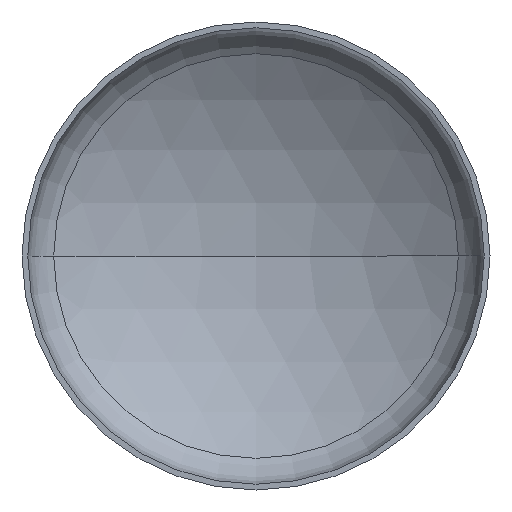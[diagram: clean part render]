
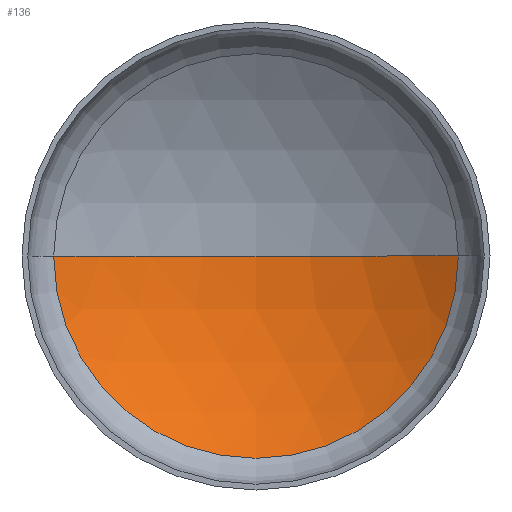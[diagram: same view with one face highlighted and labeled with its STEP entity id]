
A CAD part, front view. The second image highlights one B-rep face of the part: STEP entity #136.
In plain terms, the highlighted spherical face has radius 251.12 mm.
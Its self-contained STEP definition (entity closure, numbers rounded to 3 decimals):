
#49 = DIRECTION ( 'NONE',  ( 0., 0., 1. ) ) ;
#52 = CIRCLE ( 'NONE', #290, 251.12 ) ;
#64 = EDGE_LOOP ( 'NONE', ( #279, #143, #272 ) ) ;
#65 = DIRECTION ( 'NONE',  ( 0., 0., 1. ) ) ;
#93 = CARTESIAN_POINT ( 'NONE',  ( 0., -156.12, 0. ) ) ;
#94 = CARTESIAN_POINT ( 'NONE',  ( 0., -156.12, 0. ) ) ;
#97 = CARTESIAN_POINT ( 'NONE',  ( -139.99, 52.361, 0. ) ) ;
#123 = VERTEX_POINT ( 'NONE', #97 ) ;
#124 = EDGE_CURVE ( 'NONE', #123, #312, #126, .T. ) ;
#126 = CIRCLE ( 'NONE', #193, 251.12 ) ;
#136 = ADVANCED_FACE ( 'NONE', ( #253 ), #341, .F. ) ;
#143 = ORIENTED_EDGE ( 'NONE', *, *, #291, .T. ) ;
#170 = CARTESIAN_POINT ( 'NONE',  ( 0., -156.12, 0. ) ) ;
#176 = AXIS2_PLACEMENT_3D ( 'NONE', #233, #350, #196 ) ;
#182 = DIRECTION ( 'NONE',  ( 0., 0., -1. ) ) ;
#192 = CARTESIAN_POINT ( 'NONE',  ( 0., 95., 0. ) ) ;
#193 = AXIS2_PLACEMENT_3D ( 'NONE', #94, #182, #228 ) ;
#196 = DIRECTION ( 'NONE',  ( -1., 0., 0. ) ) ;
#222 = DIRECTION ( 'NONE',  ( 1., 0., 0. ) ) ;
#225 = VERTEX_POINT ( 'NONE', #381 ) ;
#228 = DIRECTION ( 'NONE',  ( -1., 0., 0. ) ) ;
#233 = CARTESIAN_POINT ( 'NONE',  ( 0., 52.361, 0. ) ) ;
#243 = CIRCLE ( 'NONE', #176, 139.99 ) ;
#253 = FACE_OUTER_BOUND ( 'NONE', #64, .T. ) ;
#268 = DIRECTION ( 'NONE',  ( -1., 0., 0. ) ) ;
#272 = ORIENTED_EDGE ( 'NONE', *, *, #124, .F. ) ;
#279 = ORIENTED_EDGE ( 'NONE', *, *, #340, .F. ) ;
#290 = AXIS2_PLACEMENT_3D ( 'NONE', #93, #65, #222 ) ;
#291 = EDGE_CURVE ( 'NONE', #225, #312, #52, .T. ) ;
#293 = AXIS2_PLACEMENT_3D ( 'NONE', #170, #49, #268 ) ;
#312 = VERTEX_POINT ( 'NONE', #192 ) ;
#340 = EDGE_CURVE ( 'NONE', #225, #123, #243, .T. ) ;
#341 = SPHERICAL_SURFACE ( 'NONE', #293, 251.12 ) ;
#350 = DIRECTION ( 'NONE',  ( 0., 1., 0. ) ) ;
#381 = CARTESIAN_POINT ( 'NONE',  ( 139.99, 52.361, 0. ) ) ;
